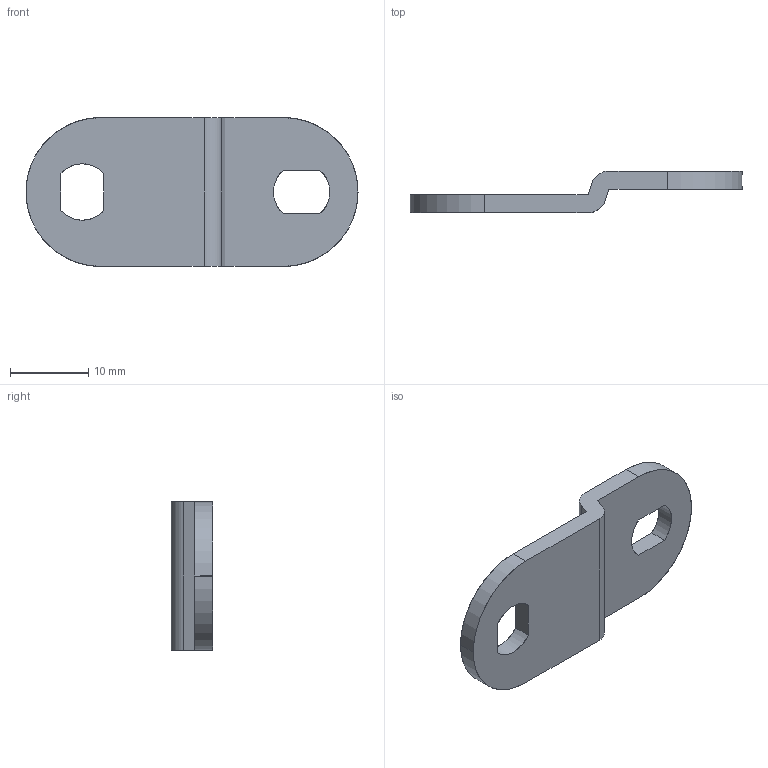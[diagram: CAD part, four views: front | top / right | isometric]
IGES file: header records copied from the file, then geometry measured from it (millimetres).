
Start section: SolidWorks IGES FILE using analytic representation for surfaces
Global section: file name: \\Ls-wvld1d\share\シブタニ\3D設計\ロック\EB-300-F\EB-300-F.IGS; native system: SolidWorks 2003 by SolidWorks Corporation; preprocessor: Version 5.3; author: user; date: 130605.152715; units: millimetre
Bounding box: 42.4 x 5.3 x 19 mm (x, y, z)
Surface area: 1733.5 mm2 (no closed solid volume)
Topology: 0 solids, 0 shells, 23 faces, 264 edges, 264 vertices
Faces by surface type: bspline 12, revolution 11
